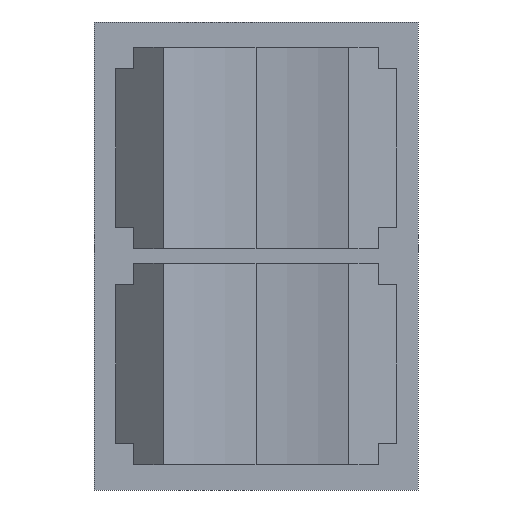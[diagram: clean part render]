
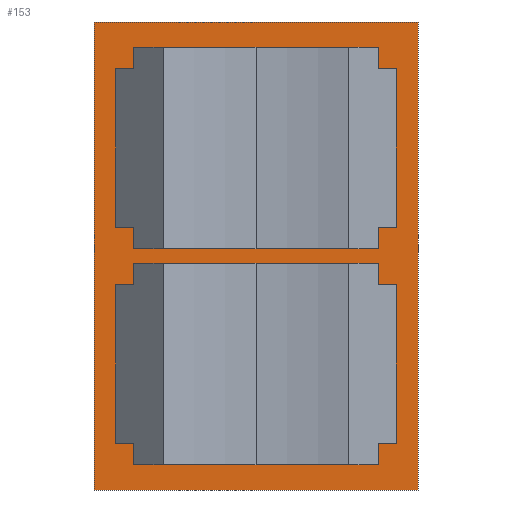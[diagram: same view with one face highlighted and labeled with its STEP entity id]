
A CAD part, left-side view. The second image highlights one B-rep face of the part: STEP entity #153.
In plain terms, the highlighted planar face has unit normal (-1, 0, 0).
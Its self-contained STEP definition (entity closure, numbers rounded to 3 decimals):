
#153=ADVANCED_FACE('',(#394,#395,#396),#397,.T.);
#394=FACE_OUTER_BOUND('',#734,.T.);
#395=FACE_BOUND('',#735,.T.);
#396=FACE_BOUND('',#736,.T.);
#397=PLANE('',#737);
#734=EDGE_LOOP('',(#1127,#1128,#1129,#1130));
#735=EDGE_LOOP('',(#1131,#1132,#1133,#1134));
#736=EDGE_LOOP('',(#1135,#1136,#1137,#1138));
#737=AXIS2_PLACEMENT_3D('',#1139,#1140,#1141);
#1127=ORIENTED_EDGE('',*,*,#2154,.T.);
#1128=ORIENTED_EDGE('',*,*,#2155,.F.);
#1129=ORIENTED_EDGE('',*,*,#2156,.T.);
#1130=ORIENTED_EDGE('',*,*,#2157,.T.);
#1131=ORIENTED_EDGE('',*,*,#2158,.T.);
#1132=ORIENTED_EDGE('',*,*,#2159,.T.);
#1133=ORIENTED_EDGE('',*,*,#2160,.T.);
#1134=ORIENTED_EDGE('',*,*,#2161,.T.);
#1135=ORIENTED_EDGE('',*,*,#2162,.T.);
#1136=ORIENTED_EDGE('',*,*,#2163,.T.);
#1137=ORIENTED_EDGE('',*,*,#2164,.T.);
#1138=ORIENTED_EDGE('',*,*,#2165,.T.);
#1139=CARTESIAN_POINT('',(122.0,0.,-5.0));
#1140=DIRECTION('',(-1.0,0.0,0.0));
#1141=DIRECTION('',(0.0,-1.0,0.0));
#2154=EDGE_CURVE('',#2625,#2626,#2627,.T.);
#2155=EDGE_CURVE('',#2628,#2626,#2629,.T.);
#2156=EDGE_CURVE('',#2628,#2630,#2631,.T.);
#2157=EDGE_CURVE('',#2630,#2625,#2632,.T.);
#2158=EDGE_CURVE('',#2633,#2634,#2635,.T.);
#2159=EDGE_CURVE('',#2634,#2636,#2637,.T.);
#2160=EDGE_CURVE('',#2636,#2638,#2639,.T.);
#2161=EDGE_CURVE('',#2638,#2633,#2640,.T.);
#2162=EDGE_CURVE('',#2641,#2642,#2643,.T.);
#2163=EDGE_CURVE('',#2642,#2644,#2645,.T.);
#2164=EDGE_CURVE('',#2644,#2646,#2647,.T.);
#2165=EDGE_CURVE('',#2646,#2641,#2648,.T.);
#2625=VERTEX_POINT('',#3302);
#2626=VERTEX_POINT('',#3303);
#2627=LINE('',#3304,#3305);
#2628=VERTEX_POINT('',#3306);
#2629=LINE('',#3307,#3308);
#2630=VERTEX_POINT('',#3309);
#2631=LINE('',#3310,#3311);
#2632=LINE('',#3312,#3313);
#2633=VERTEX_POINT('',#3314);
#2634=VERTEX_POINT('',#3315);
#2635=LINE('',#3316,#3317);
#2636=VERTEX_POINT('',#3318);
#2637=LINE('',#3319,#3320);
#2638=VERTEX_POINT('',#3321);
#2639=LINE('',#3322,#3323);
#2640=LINE('',#3324,#3325);
#2641=VERTEX_POINT('',#3326);
#2642=VERTEX_POINT('',#3327);
#2643=LINE('',#3328,#3329);
#2644=VERTEX_POINT('',#3330);
#2645=LINE('',#3331,#3332);
#2646=VERTEX_POINT('',#3333);
#2647=LINE('',#3334,#3335);
#2648=LINE('',#3336,#3337);
#3302=CARTESIAN_POINT('',(122.0,-45.0,125.0));
#3303=CARTESIAN_POINT('',(122.0,45.0,125.0));
#3304=CARTESIAN_POINT('',(122.0,45.0,125.0));
#3305=VECTOR('',#4149,1.0);
#3306=CARTESIAN_POINT('',(122.0,45.0,-5.0));
#3307=CARTESIAN_POINT('',(122.0,45.0,-5.0));
#3308=VECTOR('',#4150,1.0);
#3309=CARTESIAN_POINT('',(122.0,-45.0,-5.0));
#3310=CARTESIAN_POINT('',(122.0,45.0,-5.0));
#3311=VECTOR('',#4151,1.0);
#3312=CARTESIAN_POINT('',(122.0,-45.0,-5.0));
#3313=VECTOR('',#4152,1.0);
#3314=CARTESIAN_POINT('',(122.,39.,52.0));
#3315=CARTESIAN_POINT('',(122.,-39.,52.0));
#3316=CARTESIAN_POINT('',(122.,-12.89,52.0));
#3317=VECTOR('',#4153,1.0);
#3318=CARTESIAN_POINT('',(122.,-39.,8.0));
#3319=CARTESIAN_POINT('',(122.0,-39.,1.5));
#3320=VECTOR('',#4154,1.0);
#3321=CARTESIAN_POINT('',(122.,39.,8.0));
#3322=CARTESIAN_POINT('',(122.0,0.,8.0));
#3323=VECTOR('',#4155,1.0);
#3324=CARTESIAN_POINT('',(122.,39.,1.5));
#3325=VECTOR('',#4156,1.0);
#3326=CARTESIAN_POINT('',(122.,-39.,68.0));
#3327=CARTESIAN_POINT('',(122.,39.,68.0));
#3328=CARTESIAN_POINT('',(122.0,0.,68.0));
#3329=VECTOR('',#4157,1.0);
#3330=CARTESIAN_POINT('',(122.,39.,112.0));
#3331=CARTESIAN_POINT('',(122.,39.,31.5));
#3332=VECTOR('',#4158,1.0);
#3333=CARTESIAN_POINT('',(122.,-39.,112.0));
#3334=CARTESIAN_POINT('',(122.,-12.89,112.0));
#3335=VECTOR('',#4159,1.0);
#3336=CARTESIAN_POINT('',(122.0,-39.,31.5));
#3337=VECTOR('',#4160,1.0);
#4149=DIRECTION('',(0.0,1.0,0.0));
#4150=DIRECTION('',(0.0,0.0,1.0));
#4151=DIRECTION('',(0.0,-1.0,0.0));
#4152=DIRECTION('',(0.0,0.0,1.0));
#4153=DIRECTION('',(0.0,-1.0,0.0));
#4154=DIRECTION('',(0.0,0.0,-1.0));
#4155=DIRECTION('',(0.0,1.0,0.0));
#4156=DIRECTION('',(0.0,0.0,1.0));
#4157=DIRECTION('',(0.0,1.0,0.0));
#4158=DIRECTION('',(0.0,0.0,1.0));
#4159=DIRECTION('',(0.0,-1.0,0.0));
#4160=DIRECTION('',(0.0,0.0,-1.0));
